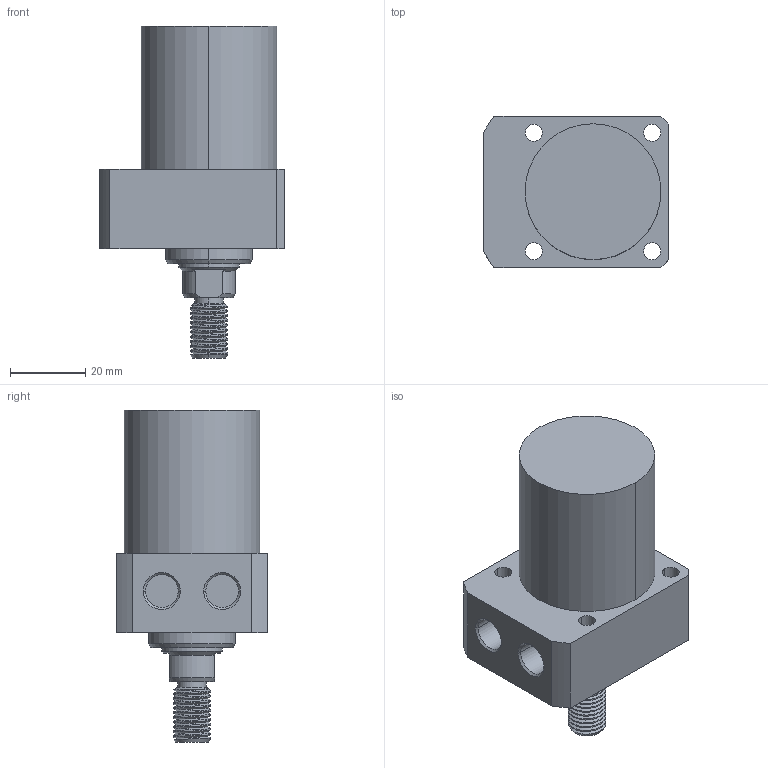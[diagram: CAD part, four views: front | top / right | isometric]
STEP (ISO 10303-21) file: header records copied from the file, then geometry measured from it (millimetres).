
FILE_DESCRIPTION((' '),'2;1');
FILE_NAME( 'TLLR-036CT-030.STEP.stp', '2025-10-24T16:35:47', (' '), ('--- Datakit www.datakit.com---'), ' Datakit CrossCadWare V2024.1 Dec 21 2023', 'Mastercam 2025', ' ');
FILE_SCHEMA(('AUTOMOTIVE_DESIGN { 1 0 10303 214 1 1 1 1 }'));
Length unit declared in the file: millimetre
Products named in the file (1): TLLR-036CT-030
Bounding box: 49 x 40 x 88 mm (x, y, z)
Volume: 80689 mm3; surface area: 14967 mm2
Topology: 1 solids, 1 shells, 87 faces, 290 edges, 213 vertices
Faces by surface type: cylinder 50, plane 21, cone 14, bspline 2
Entity records: 7063 total; most frequent: CARTESIAN_POINT 4445, ORIENTED_EDGE 580, DIRECTION 464, EDGE_CURVE 290, VERTEX_POINT 213, AXIS2_PLACEMENT_3D 187, EDGE_LOOP 103, CIRCLE 101
